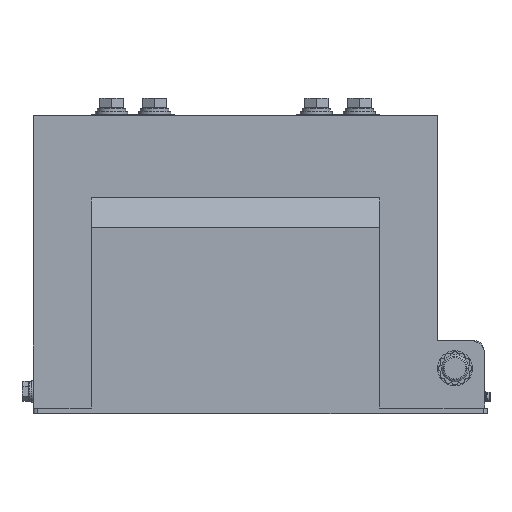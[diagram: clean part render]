
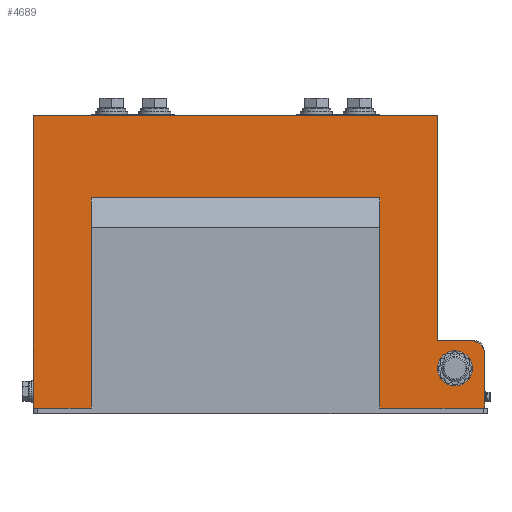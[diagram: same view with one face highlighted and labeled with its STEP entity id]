
A CAD part, top view. The second image highlights one B-rep face of the part: STEP entity #4689.
In plain terms, the highlighted planar face has unit normal (0, 0, 1).
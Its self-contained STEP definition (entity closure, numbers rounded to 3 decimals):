
#436 = ORIENTED_EDGE ( 'NONE', *, *, #27978, .F. ) ;
#529 = EDGE_CURVE ( 'NONE', #7434, #8457, #27800, .T. ) ;
#1001 = CIRCLE ( 'NONE', #25890, 13. ) ;
#1024 = CARTESIAN_POINT ( 'NONE',  ( 107., 156., 52. ) ) ;
#2032 = CARTESIAN_POINT ( 'NONE',  ( 175., 40., 52. ) ) ;
#2041 = ORIENTED_EDGE ( 'NONE', *, *, #9033, .T. ) ;
#2042 = ORIENTED_EDGE ( 'NONE', *, *, #18772, .T. ) ;
#2074 = VERTEX_POINT ( 'NONE', #9077 ) ;
#2948 = CARTESIAN_POINT ( 'NONE',  ( 150., 29.5, 52. ) ) ;
#3333 = EDGE_CURVE ( 'NONE', #19830, #21318, #29859, .T. ) ;
#3868 = DIRECTION ( 'NONE',  ( -1., 0., 0. ) ) ;
#4539 = DIRECTION ( 'NONE',  ( -1., 0., 0. ) ) ;
#4689 = ADVANCED_FACE ( 'NONE', ( #28260, #20799 ), #13995, .T. ) ;
#5424 = CARTESIAN_POINT ( 'NONE',  ( 150., 217., 52. ) ) ;
#6021 = DIRECTION ( 'NONE',  ( 0., 1., 0. ) ) ;
#6546 = AXIS2_PLACEMENT_3D ( 'NONE', #14175, #31690, #16691 ) ;
#6700 = ORIENTED_EDGE ( 'NONE', *, *, #31720, .T. ) ;
#6939 = EDGE_LOOP ( 'NONE', ( #24154, #30406 ) ) ;
#7434 = VERTEX_POINT ( 'NONE', #21695 ) ;
#7634 = CARTESIAN_POINT ( 'NONE',  ( 185., 40., 52. ) ) ;
#7743 = LINE ( 'NONE', #9903, #19516 ) ;
#8148 = VERTEX_POINT ( 'NONE', #19501 ) ;
#8457 = VERTEX_POINT ( 'NONE', #2948 ) ;
#9033 = EDGE_CURVE ( 'NONE', #10771, #22965, #30749, .T. ) ;
#9077 = CARTESIAN_POINT ( 'NONE',  ( 150., 50., 52. ) ) ;
#9479 = CARTESIAN_POINT ( 'NONE',  ( -150., 0., 52. ) ) ;
#9572 = LINE ( 'NONE', #28259, #28804 ) ;
#9903 = CARTESIAN_POINT ( 'NONE',  ( 185., 0., 52. ) ) ;
#10771 = VERTEX_POINT ( 'NONE', #23119 ) ;
#11648 = EDGE_CURVE ( 'NONE', #20561, #19830, #7743, .T. ) ;
#12140 = CARTESIAN_POINT ( 'NONE',  ( 0., 156., 52. ) ) ;
#12292 = VECTOR ( 'NONE', #24854, 1000. ) ;
#12308 = EDGE_CURVE ( 'NONE', #8148, #10771, #32005, .T. ) ;
#12466 = VERTEX_POINT ( 'NONE', #25136 ) ;
#12520 = CARTESIAN_POINT ( 'NONE',  ( 175., 50., 52. ) ) ;
#12596 = DIRECTION ( 'NONE',  ( 1., 0., 0. ) ) ;
#13043 = ORIENTED_EDGE ( 'NONE', *, *, #3333, .T. ) ;
#13976 = AXIS2_PLACEMENT_3D ( 'NONE', #26469, #23861, #16514 ) ;
#13995 = PLANE ( 'NONE',  #13976 ) ;
#14168 = EDGE_CURVE ( 'NONE', #25264, #12466, #21935, .T. ) ;
#14175 = CARTESIAN_POINT ( 'NONE',  ( 163., 29.5, 52. ) ) ;
#14506 = DIRECTION ( 'NONE',  ( 0., 1., 0. ) ) ;
#14905 = CARTESIAN_POINT ( 'NONE',  ( 163., 29.5, 52. ) ) ;
#15173 = DIRECTION ( 'NONE',  ( 1., 0., 0. ) ) ;
#15670 = VECTOR ( 'NONE', #19802, 1000. ) ;
#15701 = VECTOR ( 'NONE', #12596, 1000. ) ;
#15962 = ORIENTED_EDGE ( 'NONE', *, *, #14168, .T. ) ;
#16067 = VECTOR ( 'NONE', #3868, 1000. ) ;
#16451 = LINE ( 'NONE', #27249, #15670 ) ;
#16514 = DIRECTION ( 'NONE',  ( 1., 0., 0. ) ) ;
#16691 = DIRECTION ( 'NONE',  ( -1., 0., 0. ) ) ;
#17134 = ORIENTED_EDGE ( 'NONE', *, *, #29219, .F. ) ;
#17388 = CARTESIAN_POINT ( 'NONE',  ( 107., 0., 52. ) ) ;
#17418 = DIRECTION ( 'NONE',  ( -1., 0., 0. ) ) ;
#17763 = CARTESIAN_POINT ( 'NONE',  ( 0., 0., 52. ) ) ;
#18208 = EDGE_CURVE ( 'NONE', #21156, #12466, #9572, .T. ) ;
#18276 = ORIENTED_EDGE ( 'NONE', *, *, #12308, .T. ) ;
#18516 = CARTESIAN_POINT ( 'NONE',  ( -107., 0., 52. ) ) ;
#18772 = EDGE_CURVE ( 'NONE', #19875, #20561, #23085, .T. ) ;
#18869 = CARTESIAN_POINT ( 'NONE',  ( 0., 217., 52. ) ) ;
#18990 = LINE ( 'NONE', #19720, #12292 ) ;
#19501 = CARTESIAN_POINT ( 'NONE',  ( -107., 0., 52. ) ) ;
#19516 = VECTOR ( 'NONE', #29953, 1000. ) ;
#19543 = DIRECTION ( 'NONE',  ( 0., 0., 1. ) ) ;
#19706 = LINE ( 'NONE', #24458, #31447 ) ;
#19720 = CARTESIAN_POINT ( 'NONE',  ( 130., 50., 52. ) ) ;
#19802 = DIRECTION ( 'NONE',  ( 0., 1., 0. ) ) ;
#19830 = VERTEX_POINT ( 'NONE', #7634 ) ;
#19875 = VERTEX_POINT ( 'NONE', #17388 ) ;
#20561 = VERTEX_POINT ( 'NONE', #27255 ) ;
#20799 = FACE_BOUND ( 'NONE', #6939, .T. ) ;
#21156 = VERTEX_POINT ( 'NONE', #9479 ) ;
#21318 = VERTEX_POINT ( 'NONE', #12520 ) ;
#21695 = CARTESIAN_POINT ( 'NONE',  ( 176., 29.5, 52. ) ) ;
#21907 = EDGE_LOOP ( 'NONE', ( #436, #6700, #15962, #24467, #29280, #18276, #2041, #17134, #2042, #27737, #13043 ) ) ;
#21935 = LINE ( 'NONE', #18869, #16067 ) ;
#22290 = VECTOR ( 'NONE', #15173, 1000. ) ;
#22965 = VERTEX_POINT ( 'NONE', #1024 ) ;
#23085 = LINE ( 'NONE', #27660, #22290 ) ;
#23119 = CARTESIAN_POINT ( 'NONE',  ( -107., 156., 52. ) ) ;
#23140 = LINE ( 'NONE', #17763, #15701 ) ;
#23861 = DIRECTION ( 'NONE',  ( 0., 0., 1. ) ) ;
#24154 = ORIENTED_EDGE ( 'NONE', *, *, #529, .F. ) ;
#24458 = CARTESIAN_POINT ( 'NONE',  ( 107., 0., 52. ) ) ;
#24467 = ORIENTED_EDGE ( 'NONE', *, *, #18208, .F. ) ;
#24635 = DIRECTION ( 'NONE',  ( 1., 0., 0. ) ) ;
#24854 = DIRECTION ( 'NONE',  ( 1., 0., 0. ) ) ;
#25136 = CARTESIAN_POINT ( 'NONE',  ( -150., 217., 52. ) ) ;
#25264 = VERTEX_POINT ( 'NONE', #5424 ) ;
#25890 = AXIS2_PLACEMENT_3D ( 'NONE', #14905, #32408, #17418 ) ;
#26469 = CARTESIAN_POINT ( 'NONE',  ( 0., 0., 52. ) ) ;
#27073 = EDGE_CURVE ( 'NONE', #8457, #7434, #1001, .T. ) ;
#27249 = CARTESIAN_POINT ( 'NONE',  ( 150., 0., 52. ) ) ;
#27255 = CARTESIAN_POINT ( 'NONE',  ( 185., 0., 52. ) ) ;
#27660 = CARTESIAN_POINT ( 'NONE',  ( 0., 0., 52. ) ) ;
#27737 = ORIENTED_EDGE ( 'NONE', *, *, #11648, .T. ) ;
#27791 = AXIS2_PLACEMENT_3D ( 'NONE', #2032, #19543, #4539 ) ;
#27800 = CIRCLE ( 'NONE', #6546, 13. ) ;
#27978 = EDGE_CURVE ( 'NONE', #2074, #21318, #18990, .T. ) ;
#28259 = CARTESIAN_POINT ( 'NONE',  ( -150., 0., 52. ) ) ;
#28260 = FACE_OUTER_BOUND ( 'NONE', #21907, .T. ) ;
#28804 = VECTOR ( 'NONE', #30739, 1000. ) ;
#29219 = EDGE_CURVE ( 'NONE', #19875, #22965, #19706, .T. ) ;
#29280 = ORIENTED_EDGE ( 'NONE', *, *, #31174, .T. ) ;
#29859 = CIRCLE ( 'NONE', #27791, 10. ) ;
#29953 = DIRECTION ( 'NONE',  ( 0., 1., 0. ) ) ;
#29956 = VECTOR ( 'NONE', #24635, 1000. ) ;
#30406 = ORIENTED_EDGE ( 'NONE', *, *, #27073, .F. ) ;
#30739 = DIRECTION ( 'NONE',  ( 0., 1., 0. ) ) ;
#30749 = LINE ( 'NONE', #12140, #29956 ) ;
#31174 = EDGE_CURVE ( 'NONE', #21156, #8148, #23140, .T. ) ;
#31214 = VECTOR ( 'NONE', #6021, 1000. ) ;
#31447 = VECTOR ( 'NONE', #14506, 1000. ) ;
#31690 = DIRECTION ( 'NONE',  ( 0., 0., 1. ) ) ;
#31720 = EDGE_CURVE ( 'NONE', #2074, #25264, #16451, .T. ) ;
#32005 = LINE ( 'NONE', #18516, #31214 ) ;
#32408 = DIRECTION ( 'NONE',  ( 0., 0., 1. ) ) ;
